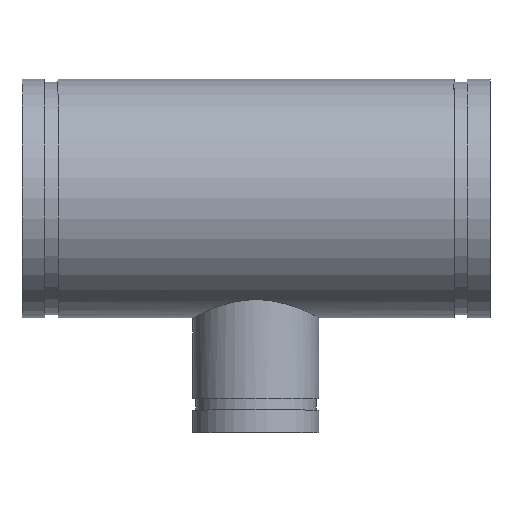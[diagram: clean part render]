
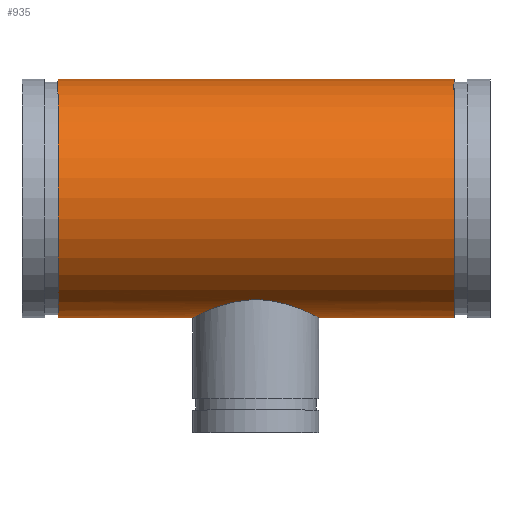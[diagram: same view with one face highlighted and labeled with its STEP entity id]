
A CAD part, top view. The second image highlights one B-rep face of the part: STEP entity #935.
In plain terms, the highlighted cylindrical face has radius 84.138 mm (diameter 168.275 mm), a full revolution.
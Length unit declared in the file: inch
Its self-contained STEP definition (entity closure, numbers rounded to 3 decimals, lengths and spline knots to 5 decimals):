
#61=FACE_BOUND('',#222,.T.);
#67=B_SPLINE_CURVE_WITH_KNOTS('',3,(#1807,#1808,#1809,#1810,#1811,#1812,
#1813,#1814,#1815,#1816,#1817,#1818,#1819,#1820,#1821,#1822,#1823,#1824),
 .UNSPECIFIED.,.F.,.F.,(4,2,2,2,2,2,2,2,4),(0.,0.85816,1.71632,
2.57448,3.43264,4.28778,5.14292,5.99807,
6.85321),.UNSPECIFIED.);
#68=B_SPLINE_CURVE_WITH_KNOTS('',3,(#1825,#1826,#1827,#1828,#1829,#1830,
#1831,#1832,#1833,#1834,#1835,#1836,#1837,#1838,#1839,#1840,#1841,#1842,
#1843,#1844,#1845,#1846,#1847,#1848,#1849,#1850,#1851,#1852,#1853,#1854,
#1855,#1856,#1857,#1858,#1859,#1860,#1861,#1862,#1863,#1864,#1865,#1866,
#1867,#1868,#1869,#1870,#1871,#1872,#1873,#1874),.UNSPECIFIED.,.F.,.F.,
(4,2,2,2,2,2,2,2,2,2,2,2,2,2,2,2,2,2,2,2,2,2,2,2,4),(6.85321,7.70835,
8.5635,9.41864,10.27378,11.13194,11.9901,
12.84826,13.70642,14.56458,15.42274,16.28089,
17.13905,17.9942,18.84934,19.70448,20.55963,
21.41477,22.26991,23.12506,23.9802,24.83836,
25.69652,26.55468,27.41284),.UNSPECIFIED.);
#81=CYLINDRICAL_SURFACE('',#1104,3.3125);
#103=LINE('',#1804,#125);
#125=VECTOR('',#1432,3.3125);
#171=FACE_OUTER_BOUND('',#221,.T.);
#221=EDGE_LOOP('',(#814,#815,#816,#817));
#222=EDGE_LOOP('',(#818,#819));
#326=CIRCLE('',#1087,3.3125);
#337=CIRCLE('',#1103,3.3125);
#424=VERTEX_POINT('',#1772);
#435=VERTEX_POINT('',#1801);
#436=VERTEX_POINT('',#1805);
#437=VERTEX_POINT('',#1806);
#552=EDGE_CURVE('',#424,#424,#326,.T.);
#565=EDGE_CURVE('',#435,#435,#337,.T.);
#566=EDGE_CURVE('',#435,#424,#103,.T.);
#567=EDGE_CURVE('',#436,#437,#67,.T.);
#568=EDGE_CURVE('',#437,#436,#68,.T.);
#814=ORIENTED_EDGE('',*,*,#565,.T.);
#815=ORIENTED_EDGE('',*,*,#566,.T.);
#816=ORIENTED_EDGE('',*,*,#552,.T.);
#817=ORIENTED_EDGE('',*,*,#566,.F.);
#818=ORIENTED_EDGE('',*,*,#567,.T.);
#819=ORIENTED_EDGE('',*,*,#568,.T.);
#935=ADVANCED_FACE('',(#171,#61),#81,.T.);
#1087=AXIS2_PLACEMENT_3D('',#1773,#1394,#1395);
#1103=AXIS2_PLACEMENT_3D('',#1802,#1428,#1429);
#1104=AXIS2_PLACEMENT_3D('',#1803,#1430,#1431);
#1394=DIRECTION('center_axis',(-1.,0.,0.));
#1395=DIRECTION('ref_axis',(0.,-1.,0.));
#1428=DIRECTION('center_axis',(1.,0.,0.));
#1429=DIRECTION('ref_axis',(0.,-1.,0.));
#1430=DIRECTION('center_axis',(-1.,0.,0.));
#1431=DIRECTION('ref_axis',(0.,-1.,0.));
#1432=DIRECTION('',(1.,0.,0.));
#1772=CARTESIAN_POINT('',(5.5,3.3125,0.));
#1773=CARTESIAN_POINT('Origin',(5.5,0.,0.));
#1801=CARTESIAN_POINT('',(-5.5,3.3125,0.));
#1802=CARTESIAN_POINT('Origin',(-5.5,0.,0.));
#1803=CARTESIAN_POINT('Origin',(6.5,0.,0.));
#1804=CARTESIAN_POINT('',(6.5,3.3125,0.));
#1805=CARTESIAN_POINT('',(0.,-2.8125,-1.75));
#1806=CARTESIAN_POINT('',(-1.75,-3.3125,0.));
#1807=CARTESIAN_POINT('Ctrl Pts',(0.,-2.8125,-1.75));
#1808=CARTESIAN_POINT('Ctrl Pts',(-0.11262,-2.8125,-1.75));
#1809=CARTESIAN_POINT('Ctrl Pts',(-0.22811,-2.81946,
-1.73896));
#1810=CARTESIAN_POINT('Ctrl Pts',(-0.45612,-2.847,-1.69351));
#1811=CARTESIAN_POINT('Ctrl Pts',(-0.56865,-2.86751,-1.65912));
#1812=CARTESIAN_POINT('Ctrl Pts',(-0.78327,-2.91767,
-1.56924));
#1813=CARTESIAN_POINT('Ctrl Pts',(-0.88557,-2.94728,
-1.51369));
#1814=CARTESIAN_POINT('Ctrl Pts',(-1.07436,-3.00939,-1.38609));
#1815=CARTESIAN_POINT('Ctrl Pts',(-1.16085,-3.04184,-1.31403));
#1816=CARTESIAN_POINT('Ctrl Pts',(-1.31376,-3.10342,-1.16112));
#1817=CARTESIAN_POINT('Ctrl Pts',(-1.38578,-3.13486,-1.07476));
#1818=CARTESIAN_POINT('Ctrl Pts',(-1.51348,-3.19336,-0.88593));
#1819=CARTESIAN_POINT('Ctrl Pts',(-1.56917,-3.22039,-0.78344));
#1820=CARTESIAN_POINT('Ctrl Pts',(-1.65921,-3.26521,-0.56843));
#1821=CARTESIAN_POINT('Ctrl Pts',(-1.69363,-3.28301,-0.45569));
#1822=CARTESIAN_POINT('Ctrl Pts',(-1.73903,-3.30666,-0.22759));
#1823=CARTESIAN_POINT('Ctrl Pts',(-1.75,-3.3125,-0.11222));
#1824=CARTESIAN_POINT('Ctrl Pts',(-1.75,-3.3125,0.));
#1825=CARTESIAN_POINT('Ctrl Pts',(-1.75,-3.3125,0.));
#1826=CARTESIAN_POINT('Ctrl Pts',(-1.75,-3.3125,0.11222));
#1827=CARTESIAN_POINT('Ctrl Pts',(-1.73903,-3.30666,0.22759));
#1828=CARTESIAN_POINT('Ctrl Pts',(-1.69363,-3.28301,0.45569));
#1829=CARTESIAN_POINT('Ctrl Pts',(-1.65921,-3.26521,0.56843));
#1830=CARTESIAN_POINT('Ctrl Pts',(-1.56917,-3.22039,0.78344));
#1831=CARTESIAN_POINT('Ctrl Pts',(-1.51348,-3.19336,0.88593));
#1832=CARTESIAN_POINT('Ctrl Pts',(-1.38578,-3.13486,1.07476));
#1833=CARTESIAN_POINT('Ctrl Pts',(-1.31376,-3.10342,1.16112));
#1834=CARTESIAN_POINT('Ctrl Pts',(-1.16085,-3.04184,1.31403));
#1835=CARTESIAN_POINT('Ctrl Pts',(-1.07436,-3.00939,1.38609));
#1836=CARTESIAN_POINT('Ctrl Pts',(-0.88557,-2.94728,
1.51369));
#1837=CARTESIAN_POINT('Ctrl Pts',(-0.78327,-2.91767,
1.56924));
#1838=CARTESIAN_POINT('Ctrl Pts',(-0.56865,-2.86751,1.65912));
#1839=CARTESIAN_POINT('Ctrl Pts',(-0.45612,-2.847,1.69351));
#1840=CARTESIAN_POINT('Ctrl Pts',(-0.22811,-2.81946,1.73896));
#1841=CARTESIAN_POINT('Ctrl Pts',(-0.11262,-2.8125,1.75));
#1842=CARTESIAN_POINT('Ctrl Pts',(0.11262,-2.8125,1.75));
#1843=CARTESIAN_POINT('Ctrl Pts',(0.22811,-2.81946,1.73896));
#1844=CARTESIAN_POINT('Ctrl Pts',(0.45612,-2.847,1.69351));
#1845=CARTESIAN_POINT('Ctrl Pts',(0.56865,-2.86751,1.65912));
#1846=CARTESIAN_POINT('Ctrl Pts',(0.78327,-2.91767,1.56924));
#1847=CARTESIAN_POINT('Ctrl Pts',(0.88557,-2.94728,1.51369));
#1848=CARTESIAN_POINT('Ctrl Pts',(1.07436,-3.00939,1.38609));
#1849=CARTESIAN_POINT('Ctrl Pts',(1.16085,-3.04184,1.31403));
#1850=CARTESIAN_POINT('Ctrl Pts',(1.31376,-3.10342,1.16112));
#1851=CARTESIAN_POINT('Ctrl Pts',(1.38578,-3.13486,1.07476));
#1852=CARTESIAN_POINT('Ctrl Pts',(1.51348,-3.19336,0.88593));
#1853=CARTESIAN_POINT('Ctrl Pts',(1.56917,-3.22039,0.78344));
#1854=CARTESIAN_POINT('Ctrl Pts',(1.65921,-3.26521,0.56843));
#1855=CARTESIAN_POINT('Ctrl Pts',(1.69363,-3.28301,0.45569));
#1856=CARTESIAN_POINT('Ctrl Pts',(1.73903,-3.30666,0.22759));
#1857=CARTESIAN_POINT('Ctrl Pts',(1.75,-3.3125,0.11222));
#1858=CARTESIAN_POINT('Ctrl Pts',(1.75,-3.3125,-0.11222));
#1859=CARTESIAN_POINT('Ctrl Pts',(1.73903,-3.30666,-0.22759));
#1860=CARTESIAN_POINT('Ctrl Pts',(1.69363,-3.28301,-0.45569));
#1861=CARTESIAN_POINT('Ctrl Pts',(1.65921,-3.26521,-0.56843));
#1862=CARTESIAN_POINT('Ctrl Pts',(1.56917,-3.22039,-0.78344));
#1863=CARTESIAN_POINT('Ctrl Pts',(1.51348,-3.19336,-0.88593));
#1864=CARTESIAN_POINT('Ctrl Pts',(1.38578,-3.13486,-1.07476));
#1865=CARTESIAN_POINT('Ctrl Pts',(1.31376,-3.10342,-1.16112));
#1866=CARTESIAN_POINT('Ctrl Pts',(1.16085,-3.04184,-1.31403));
#1867=CARTESIAN_POINT('Ctrl Pts',(1.07436,-3.00939,-1.38609));
#1868=CARTESIAN_POINT('Ctrl Pts',(0.88557,-2.94728,-1.51369));
#1869=CARTESIAN_POINT('Ctrl Pts',(0.78327,-2.91767,-1.56924));
#1870=CARTESIAN_POINT('Ctrl Pts',(0.56865,-2.86751,-1.65912));
#1871=CARTESIAN_POINT('Ctrl Pts',(0.45612,-2.847,-1.69351));
#1872=CARTESIAN_POINT('Ctrl Pts',(0.22811,-2.81946,-1.73896));
#1873=CARTESIAN_POINT('Ctrl Pts',(0.11262,-2.8125,-1.75));
#1874=CARTESIAN_POINT('Ctrl Pts',(0.,-2.8125,-1.75));
